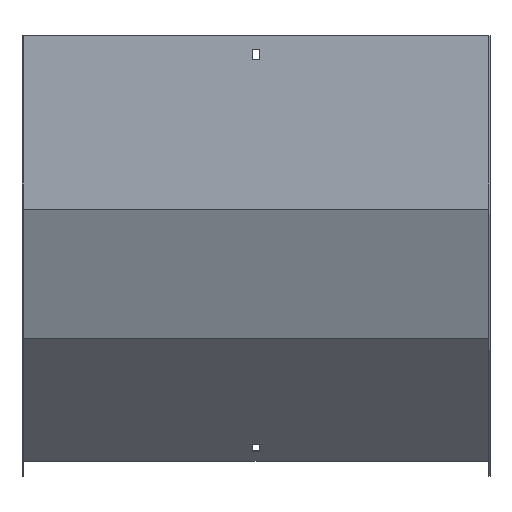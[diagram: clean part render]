
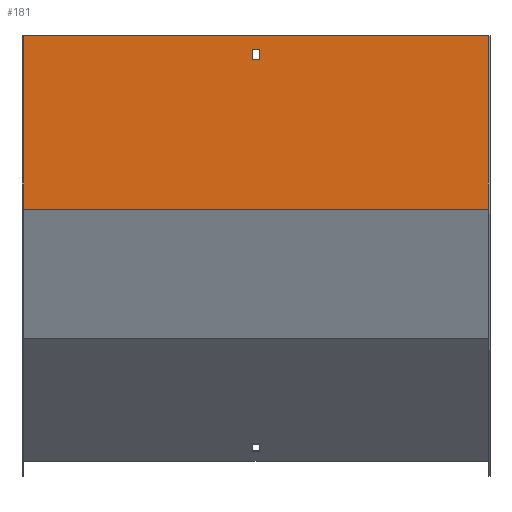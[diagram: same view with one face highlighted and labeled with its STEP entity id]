
A CAD part, front view. The second image highlights one B-rep face of the part: STEP entity #181.
In plain terms, the highlighted planar face has unit normal (0, -1, 0).
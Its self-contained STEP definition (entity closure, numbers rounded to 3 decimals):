
#30 = CARTESIAN_POINT ( 'NONE',  ( -200., -1.5, 0. ) ) ;
#31 = VECTOR ( 'NONE', #88, 1000. ) ;
#67 = VERTEX_POINT ( 'NONE', #736 ) ;
#82 = LINE ( 'NONE', #413, #31 ) ;
#84 = ORIENTED_EDGE ( 'NONE', *, *, #93, .F. ) ;
#86 = CARTESIAN_POINT ( 'NONE',  ( 201.5, -1.5, 0. ) ) ;
#88 = DIRECTION ( 'NONE',  ( 0., 0., -1. ) ) ;
#90 = ORIENTED_EDGE ( 'NONE', *, *, #460, .F. ) ;
#92 = DIRECTION ( 'NONE',  ( -1., 0., 0. ) ) ;
#93 = EDGE_CURVE ( 'NONE', #777, #67, #635, .T. ) ;
#95 = DIRECTION ( 'NONE',  ( 0., 0., 1. ) ) ;
#100 = DIRECTION ( 'NONE',  ( 0., 1., 0. ) ) ;
#102 = ORIENTED_EDGE ( 'NONE', *, *, #577, .T. ) ;
#105 = VERTEX_POINT ( 'NONE', #775 ) ;
#142 = VECTOR ( 'NONE', #444, 1000. ) ;
#153 = EDGE_CURVE ( 'NONE', #306, #777, #82, .T. ) ;
#158 = LINE ( 'NONE', #680, #533 ) ;
#170 = FACE_BOUND ( 'NONE', #485, .T. ) ;
#181 = ADVANCED_FACE ( 'NONE', ( #491, #170 ), #359, .F. ) ;
#198 = CARTESIAN_POINT ( 'NONE',  ( -200., -1.5, 0. ) ) ;
#218 = LINE ( 'NONE', #86, #415 ) ;
#229 = VERTEX_POINT ( 'NONE', #30 ) ;
#263 = AXIS2_PLACEMENT_3D ( 'NONE', #838, #100, #95 ) ;
#289 = ORIENTED_EDGE ( 'NONE', *, *, #834, .F. ) ;
#306 = VERTEX_POINT ( 'NONE', #783 ) ;
#310 = LINE ( 'NONE', #785, #342 ) ;
#332 = EDGE_CURVE ( 'NONE', #229, #67, #380, .T. ) ;
#342 = VECTOR ( 'NONE', #796, 1000. ) ;
#359 = PLANE ( 'NONE',  #263 ) ;
#380 = LINE ( 'NONE', #198, #142 ) ;
#394 = LINE ( 'NONE', #659, #700 ) ;
#413 = CARTESIAN_POINT ( 'NONE',  ( 200., -1.5, 0. ) ) ;
#415 = VECTOR ( 'NONE', #729, 1000. ) ;
#418 = CARTESIAN_POINT ( 'NONE',  ( 201.5, -1.5, -12. ) ) ;
#424 = VERTEX_POINT ( 'NONE', #587 ) ;
#436 = ORIENTED_EDGE ( 'NONE', *, *, #705, .F. ) ;
#444 = DIRECTION ( 'NONE',  ( 0., 0., -1. ) ) ;
#460 = EDGE_CURVE ( 'NONE', #105, #536, #310, .T. ) ;
#481 = ORIENTED_EDGE ( 'NONE', *, *, #797, .F. ) ;
#485 = EDGE_LOOP ( 'NONE', ( #436, #481, #90, #289 ) ) ;
#491 = FACE_OUTER_BOUND ( 'NONE', #660, .T. ) ;
#505 = CARTESIAN_POINT ( 'NONE',  ( 201.5, -1.5, -150.098 ) ) ;
#521 = DIRECTION ( 'NONE',  ( 1., 0., 0. ) ) ;
#533 = VECTOR ( 'NONE', #612, 1000. ) ;
#536 = VERTEX_POINT ( 'NONE', #639 ) ;
#549 = VECTOR ( 'NONE', #92, 1000. ) ;
#566 = DIRECTION ( 'NONE',  ( -1., 0., 0. ) ) ;
#577 = EDGE_CURVE ( 'NONE', #306, #229, #218, .T. ) ;
#587 = CARTESIAN_POINT ( 'NONE',  ( 3.25, -1.5, -12. ) ) ;
#588 = VERTEX_POINT ( 'NONE', #596 ) ;
#596 = CARTESIAN_POINT ( 'NONE',  ( 3.25, -1.5, -21. ) ) ;
#612 = DIRECTION ( 'NONE',  ( 0., 0., 1. ) ) ;
#635 = LINE ( 'NONE', #505, #678 ) ;
#639 = CARTESIAN_POINT ( 'NONE',  ( -3.25, -1.5, -21. ) ) ;
#652 = ORIENTED_EDGE ( 'NONE', *, *, #153, .F. ) ;
#659 = CARTESIAN_POINT ( 'NONE',  ( 201.5, -1.5, -21. ) ) ;
#660 = EDGE_LOOP ( 'NONE', ( #765, #84, #652, #102 ) ) ;
#678 = VECTOR ( 'NONE', #566, 1000. ) ;
#680 = CARTESIAN_POINT ( 'NONE',  ( 3.25, -1.5, 0. ) ) ;
#692 = CARTESIAN_POINT ( 'NONE',  ( 200., -1.5, -150.098 ) ) ;
#700 = VECTOR ( 'NONE', #521, 1000. ) ;
#705 = EDGE_CURVE ( 'NONE', #588, #424, #158, .T. ) ;
#729 = DIRECTION ( 'NONE',  ( -1., 0., 0. ) ) ;
#736 = CARTESIAN_POINT ( 'NONE',  ( -200., -1.5, -150.098 ) ) ;
#765 = ORIENTED_EDGE ( 'NONE', *, *, #332, .T. ) ;
#775 = CARTESIAN_POINT ( 'NONE',  ( -3.25, -1.5, -12. ) ) ;
#777 = VERTEX_POINT ( 'NONE', #692 ) ;
#783 = CARTESIAN_POINT ( 'NONE',  ( 200., -1.5, 0. ) ) ;
#785 = CARTESIAN_POINT ( 'NONE',  ( -3.25, -1.5, 0. ) ) ;
#796 = DIRECTION ( 'NONE',  ( 0., 0., -1. ) ) ;
#797 = EDGE_CURVE ( 'NONE', #536, #588, #394, .T. ) ;
#812 = LINE ( 'NONE', #418, #549 ) ;
#834 = EDGE_CURVE ( 'NONE', #424, #105, #812, .T. ) ;
#838 = CARTESIAN_POINT ( 'NONE',  ( 201.5, -1.5, 0. ) ) ;
